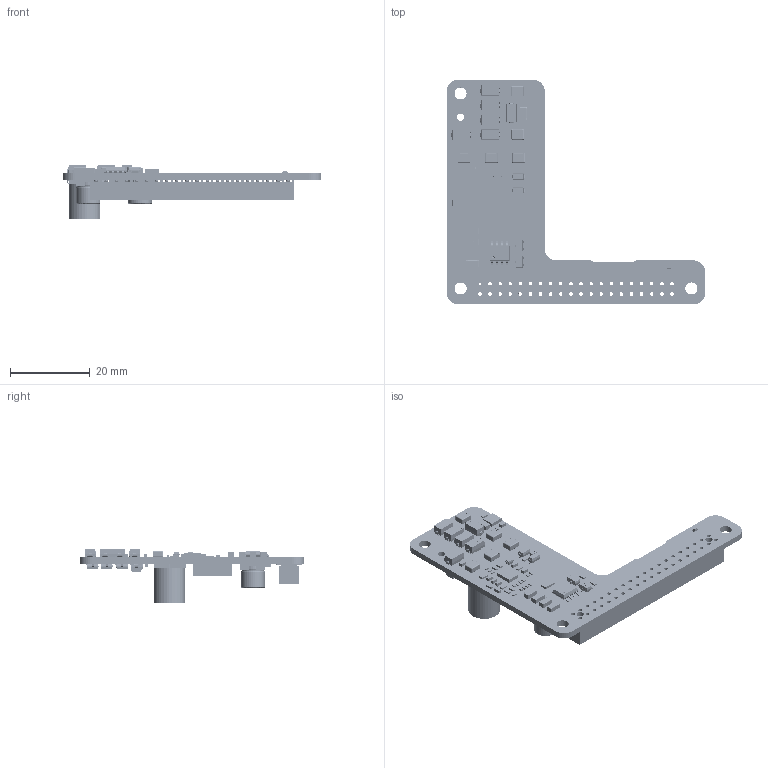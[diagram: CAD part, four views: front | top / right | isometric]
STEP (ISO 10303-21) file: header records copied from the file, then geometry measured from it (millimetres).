
FILE_DESCRIPTION(('Open CASCADE Model'),'2;1');
FILE_NAME('Open CASCADE Shape Model','2024-06-22T17:34:01',('Author'),( 'Open CASCADE'),'Open CASCADE STEP processor 6.5','Open CASCADE 6.5' ,'Unknown');
FILE_SCHEMA(('AUTOMOTIVE_DESIGN { 1 0 10303 214 1 1 1 1 }'));
Length unit declared in the file: millimetre
Products named in the file (167): PCB; Board; C26; C_1210; C_1210-98_AF0_ASM; C_1210-6204_AF0; C25; R34; R0402; R_0402-5222_AF0_ASM; R_0402-3099_AF0_ASM; _2_1_20001; 5_1_2_A; _7_AF0; R33; R32; R31; R30; R29; R28; Q8; SOT-23; Q7; Q6; Q5; D8; SMA; SMA-4715_AF0_ASM; SMA-5401_AF0; D7; C23; C_0603; C_0603-7177_AF0_ASM; C_0603-683_AF0_ASM; 2_1_200; _1_1_20001; 3_1_2_A; C22; C21; U2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
Assembly tree (234 placements, depth 6):
  PCB
    Board
    C26
      C_1210
        C_1210-98_AF0_ASM
          C_1210-6204_AF0
    C25
      C_1210
        C_1210-98_AF0_ASM
          C_1210-6204_AF0
    R34
      R0402
        R_0402-5222_AF0_ASM
          R_0402-3099_AF0_ASM
            _2_1_20001
            5_1_2_A
            _7_AF0
    R33
      R0402
        R_0402-5222_AF0_ASM
          R_0402-3099_AF0_ASM
            _2_1_20001
            5_1_2_A
            _7_AF0
    R32
      R0402
        R_0402-5222_AF0_ASM
          R_0402-3099_AF0_ASM
            _2_1_20001
            5_1_2_A
            _7_AF0
    R31
      R0402
        R_0402-5222_AF0_ASM
          R_0402-3099_AF0_ASM
            _2_1_20001
            5_1_2_A
            _7_AF0
    R30
      R0402
        R_0402-5222_AF0_ASM
          R_0402-3099_AF0_ASM
            _2_1_20001
            5_1_2_A
            _7_AF0
    R29
      R0402
        R_0402-5222_AF0_ASM
          R_0402-3099_AF0_ASM
            _2_1_20001
            5_1_2_A
            _7_AF0
    R28
      R0402
        R_0402-5222_AF0_ASM
          R_0402-3099_AF0_ASM
            _2_1_20001
            5_1_2_A
            _7_AF0
    Q8
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Bounding box: 65 x 56.52 x 13.75 mm (x, y, z)
Volume: 5319.9 mm3; surface area: 9420.8 mm2
Topology: 212 solids, 213 shells, 34983 faces, 93796 edges, 61923 vertices
Faces by surface type: plane 24446, extrusion 8322, cylinder 1221, bspline 702, sphere 272, torus 20
Full cylindrical faces by diameter (mm): 0.95 x40, 1.8 x3, 8 x1
Entity records: 626575 total; most frequent: CARTESIAN_POINT 233032, DIRECTION 55841, VECTOR 42009, LINE 40546, ORIENTED_EDGE 38566, PCURVE 38566, DEFINITIONAL_REPRESENTATION 38566, EDGE_CURVE 19284
